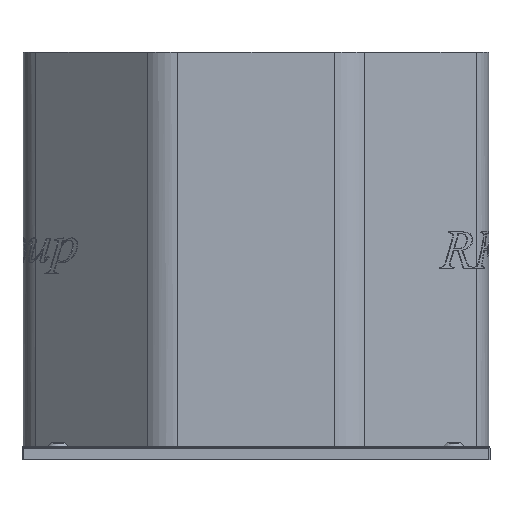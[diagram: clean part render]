
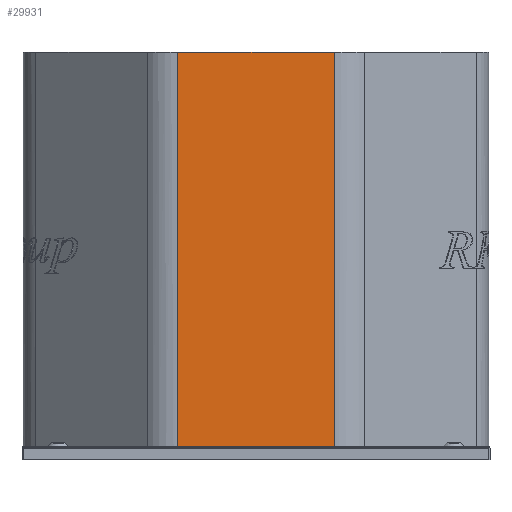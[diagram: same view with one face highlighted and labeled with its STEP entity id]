
A CAD part, front view. The second image highlights one B-rep face of the part: STEP entity #29931.
In plain terms, the highlighted planar face has unit normal (0, -1, 0).
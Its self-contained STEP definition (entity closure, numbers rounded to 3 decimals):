
#1281=PLANE('',#31816);
#3449=FACE_OUTER_BOUND('',#5146,.T.);
#5146=EDGE_LOOP('',(#25152,#25153,#25154,#25155));
#7361=LINE('',#51402,#10003);
#7641=LINE('',#52654,#10283);
#7642=LINE('',#52657,#10284);
#7643=LINE('',#52658,#10285);
#10003=VECTOR('',#36146,10.);
#10283=VECTOR('',#37094,10.);
#10284=VECTOR('',#37097,10.);
#10285=VECTOR('',#37098,10.);
#13722=VERTEX_POINT('',#51399);
#13723=VERTEX_POINT('',#51401);
#14245=VERTEX_POINT('',#52652);
#14246=VERTEX_POINT('',#52656);
#17525=EDGE_CURVE('',#13722,#13723,#7361,.T.);
#18080=EDGE_CURVE('',#14245,#13722,#7641,.T.);
#18081=EDGE_CURVE('',#14246,#14245,#7642,.T.);
#18082=EDGE_CURVE('',#14246,#13723,#7643,.T.);
#25152=ORIENTED_EDGE('',*,*,#17525,.F.);
#25153=ORIENTED_EDGE('',*,*,#18080,.F.);
#25154=ORIENTED_EDGE('',*,*,#18081,.F.);
#25155=ORIENTED_EDGE('',*,*,#18082,.T.);
#29931=ADVANCED_FACE('',(#3449),#1281,.T.);
#31816=AXIS2_PLACEMENT_3D('',#52655,#37095,#37096);
#36146=DIRECTION('',(-1.,0.,0.));
#37094=DIRECTION('',(0.,0.,-1.));
#37095=DIRECTION('center_axis',(0.,-1.,0.));
#37096=DIRECTION('ref_axis',(-1.,0.,0.));
#37097=DIRECTION('',(1.,0.,0.));
#37098=DIRECTION('',(0.,0.,-1.));
#51399=CARTESIAN_POINT('',(148.464,-441.59,-2.354));
#51401=CARTESIAN_POINT('',(-152.715,-441.614,-2.354));
#51402=CARTESIAN_POINT('',(73.169,-441.596,-2.354));
#52652=CARTESIAN_POINT('',(148.464,-441.59,756.146));
#52654=CARTESIAN_POINT('',(148.464,-441.59,756.146));
#52655=CARTESIAN_POINT('Origin',(148.464,-441.59,756.146));
#52656=CARTESIAN_POINT('',(-152.715,-441.614,756.146));
#52657=CARTESIAN_POINT('',(-152.715,-441.614,756.146));
#52658=CARTESIAN_POINT('',(-152.715,-441.614,756.146));
